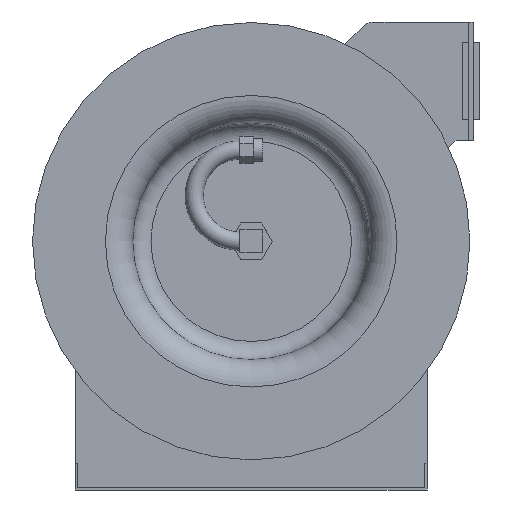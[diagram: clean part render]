
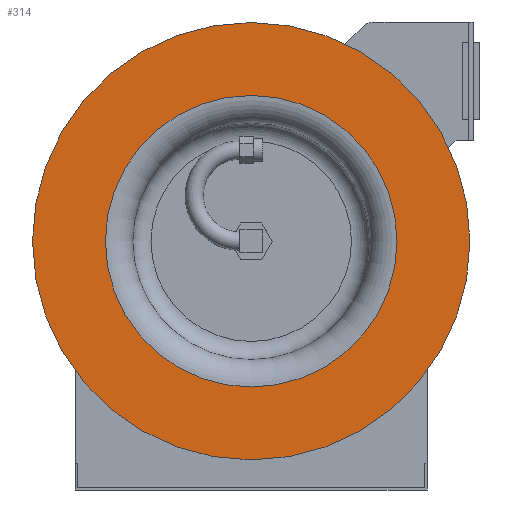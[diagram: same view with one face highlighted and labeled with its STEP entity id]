
A CAD part, left-side view. The second image highlights one B-rep face of the part: STEP entity #314.
In plain terms, the highlighted planar face has unit normal (-1, 0, 0).
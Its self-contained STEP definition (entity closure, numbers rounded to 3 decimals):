
#314 = ADVANCED_FACE( '', ( #689, #690 ), #691, .T. );
#689 = FACE_OUTER_BOUND( '', #1094, .T. );
#690 = FACE_BOUND( '', #1095, .T. );
#691 = PLANE( '', #1096 );
#1094 = EDGE_LOOP( '', ( #1919 ) );
#1095 = EDGE_LOOP( '', ( #1920 ) );
#1096 = AXIS2_PLACEMENT_3D( '', #1921, #1922, #1923 );
#1919 = ORIENTED_EDGE( '', *, *, #2437, .T. );
#1920 = ORIENTED_EDGE( '', *, *, #2404, .F. );
#1921 = CARTESIAN_POINT( '', ( -132.258, 0., 101.6 ) );
#1922 = DIRECTION( '', ( -1., 0., 0. ) );
#1923 = DIRECTION( '', ( 0., 0., 1. ) );
#2404 = EDGE_CURVE( '', #2913, #2913, #2914, .T. );
#2437 = EDGE_CURVE( '', #2958, #2958, #2959, .T. );
#2913 = VERTEX_POINT( '', #3628 );
#2914 = CIRCLE( '', #3629, 101.6 );
#2958 = VERTEX_POINT( '', #3696 );
#2959 = CIRCLE( '', #3697, 152.4 );
#3628 = CARTESIAN_POINT( '', ( -132.258, 0., 101.6 ) );
#3629 = AXIS2_PLACEMENT_3D( '', #4087, #4088, #4089 );
#3696 = CARTESIAN_POINT( '', ( -132.258, 0., 152.4 ) );
#3697 = AXIS2_PLACEMENT_3D( '', #4124, #4125, #4126 );
#4087 = CARTESIAN_POINT( '', ( -132.258, 0., 0. ) );
#4088 = DIRECTION( '', ( -1., 0., 0. ) );
#4089 = DIRECTION( '', ( 0., 0., 1. ) );
#4124 = CARTESIAN_POINT( '', ( -132.258, 0., 0. ) );
#4125 = DIRECTION( '', ( -1., 0., 0. ) );
#4126 = DIRECTION( '', ( 0., 0., 1. ) );
